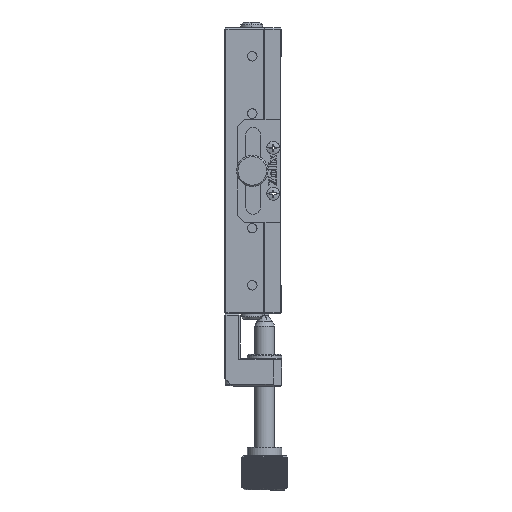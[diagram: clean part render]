
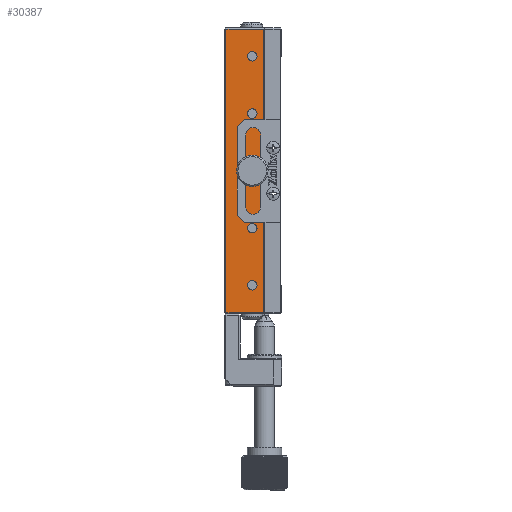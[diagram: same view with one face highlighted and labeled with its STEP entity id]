
A CAD part, left-side view. The second image highlights one B-rep face of the part: STEP entity #30387.
In plain terms, the highlighted planar face has unit normal (-1, 0, 0).
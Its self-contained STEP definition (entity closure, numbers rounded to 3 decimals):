
#181 = CARTESIAN_POINT ( 'NONE',  ( -45.101, -17.141, 74.15 ) ) ;
#251 = VERTEX_POINT ( 'NONE', #7598 ) ;
#455 = CARTESIAN_POINT ( 'NONE',  ( -45.101, -17.141, 112.5 ) ) ;
#563 = ORIENTED_EDGE ( 'NONE', *, *, #35340, .T. ) ;
#1307 = CARTESIAN_POINT ( 'NONE',  ( -45.101, -17.141, 130.85 ) ) ;
#2062 = ORIENTED_EDGE ( 'NONE', *, *, #16859, .T. ) ;
#2207 = CARTESIAN_POINT ( 'NONE',  ( -45.101, -21.141, 162. ) ) ;
#2562 = CARTESIAN_POINT ( 'NONE',  ( -45.101, -17.141, 72.5 ) ) ;
#2805 = AXIS2_PLACEMENT_3D ( 'NONE', #6189, #26050, #39174 ) ;
#2825 = CARTESIAN_POINT ( 'NONE',  ( -45.101, -7.941, 62.5 ) ) ;
#3235 = CARTESIAN_POINT ( 'NONE',  ( -45.101, -17.141, 132.5 ) ) ;
#3565 = AXIS2_PLACEMENT_3D ( 'NONE', #2562, #39468, #19527 ) ;
#3832 = CIRCLE ( 'NONE', #5452, 1.65 ) ;
#4475 = VERTEX_POINT ( 'NONE', #1307 ) ;
#4486 = EDGE_CURVE ( 'NONE', #33120, #25168, #9289, .T. ) ;
#4611 = VERTEX_POINT ( 'NONE', #9201 ) ;
#4981 = DIRECTION ( 'NONE',  ( 0., 1., 0. ) ) ;
#5452 = AXIS2_PLACEMENT_3D ( 'NONE', #3235, #26574, #6572 ) ;
#5827 = ORIENTED_EDGE ( 'NONE', *, *, #4486, .T. ) ;
#6189 = CARTESIAN_POINT ( 'NONE',  ( -45.101, -21.141, 62.5 ) ) ;
#6304 = EDGE_LOOP ( 'NONE', ( #563, #5827, #2062, #29968 ) ) ;
#6340 = PLANE ( 'NONE',  #2805 ) ;
#6572 = DIRECTION ( 'NONE',  ( 0., 0., 1. ) ) ;
#7091 = EDGE_CURVE ( 'NONE', #38229, #18842, #15316, .T. ) ;
#7127 = DIRECTION ( 'NONE',  ( 0., 0., 1. ) ) ;
#7393 = ORIENTED_EDGE ( 'NONE', *, *, #14277, .F. ) ;
#7598 = CARTESIAN_POINT ( 'NONE',  ( -45.101, -17.141, 114.6 ) ) ;
#7731 = AXIS2_PLACEMENT_3D ( 'NONE', #42111, #25052, #11613 ) ;
#7855 = CARTESIAN_POINT ( 'NONE',  ( -45.101, -17.141, 154.15 ) ) ;
#8355 = AXIS2_PLACEMENT_3D ( 'NONE', #23619, #13375, #26959 ) ;
#8783 = FACE_OUTER_BOUND ( 'NONE', #6304, .T. ) ;
#9201 = CARTESIAN_POINT ( 'NONE',  ( -45.101, -17.141, 70.85 ) ) ;
#9289 = LINE ( 'NONE', #24974, #32204 ) ;
#9509 = EDGE_LOOP ( 'NONE', ( #25760, #37669 ) ) ;
#10154 = ORIENTED_EDGE ( 'NONE', *, *, #39456, .F. ) ;
#10185 = CARTESIAN_POINT ( 'NONE',  ( -45.101, -17.141, 152.5 ) ) ;
#10841 = DIRECTION ( 'NONE',  ( -1., 0., 0. ) ) ;
#11249 = DIRECTION ( 'NONE',  ( 0., 0., 1. ) ) ;
#11613 = DIRECTION ( 'NONE',  ( 0., 0., 1. ) ) ;
#12194 = ORIENTED_EDGE ( 'NONE', *, *, #27421, .F. ) ;
#12834 = DIRECTION ( 'NONE',  ( 0., 0., 1. ) ) ;
#13375 = DIRECTION ( 'NONE',  ( -1., 0., 0. ) ) ;
#14277 = EDGE_CURVE ( 'NONE', #4611, #40771, #20222, .T. ) ;
#14322 = CIRCLE ( 'NONE', #34196, 1.65 ) ;
#14615 = ORIENTED_EDGE ( 'NONE', *, *, #7091, .F. ) ;
#15131 = VECTOR ( 'NONE', #21067, 1000. ) ;
#15316 = CIRCLE ( 'NONE', #35848, 1.65 ) ;
#15393 = CARTESIAN_POINT ( 'NONE',  ( -45.101, -21.141, 63. ) ) ;
#15740 = EDGE_LOOP ( 'NONE', ( #14615, #29059 ) ) ;
#16567 = CARTESIAN_POINT ( 'NONE',  ( -45.101, -17.141, 134.15 ) ) ;
#16694 = DIRECTION ( 'NONE',  ( 0., 0., -1. ) ) ;
#16859 = EDGE_CURVE ( 'NONE', #25168, #43278, #20072, .T. ) ;
#17077 = LINE ( 'NONE', #15393, #18141 ) ;
#17447 = DIRECTION ( 'NONE',  ( -1., 0., 0. ) ) ;
#17564 = CARTESIAN_POINT ( 'NONE',  ( -45.101, -17.141, 90.85 ) ) ;
#18024 = CARTESIAN_POINT ( 'NONE',  ( -45.101, -21.141, 62.5 ) ) ;
#18141 = VECTOR ( 'NONE', #32143, 1000. ) ;
#18283 = DIRECTION ( 'NONE',  ( 0., 0., 1. ) ) ;
#18842 = VERTEX_POINT ( 'NONE', #42776 ) ;
#18857 = CARTESIAN_POINT ( 'NONE',  ( -45.101, -7.941, 63. ) ) ;
#19057 = CARTESIAN_POINT ( 'NONE',  ( -45.101, -17.141, 152.5 ) ) ;
#19250 = FACE_BOUND ( 'NONE', #9509, .T. ) ;
#19327 = AXIS2_PLACEMENT_3D ( 'NONE', #20151, #32962, #12834 ) ;
#19360 = VERTEX_POINT ( 'NONE', #26136 ) ;
#19527 = DIRECTION ( 'NONE',  ( 0., 0., 1. ) ) ;
#20072 = LINE ( 'NONE', #2825, #41999 ) ;
#20151 = CARTESIAN_POINT ( 'NONE',  ( -45.101, -17.141, 92.5 ) ) ;
#20222 = CIRCLE ( 'NONE', #3565, 1.65 ) ;
#20262 = FACE_BOUND ( 'NONE', #32023, .T. ) ;
#21067 = DIRECTION ( 'NONE',  ( 0., 0., 1. ) ) ;
#21238 = CARTESIAN_POINT ( 'NONE',  ( -45.101, -21.141, 63. ) ) ;
#21756 = CIRCLE ( 'NONE', #38057, 2.1 ) ;
#22192 = CIRCLE ( 'NONE', #24993, 1.65 ) ;
#22646 = CIRCLE ( 'NONE', #19327, 1.65 ) ;
#22809 = EDGE_CURVE ( 'NONE', #37658, #251, #21756, .T. ) ;
#23415 = FACE_BOUND ( 'NONE', #27876, .T. ) ;
#23619 = CARTESIAN_POINT ( 'NONE',  ( -45.101, -17.141, 132.5 ) ) ;
#23797 = CIRCLE ( 'NONE', #8355, 1.65 ) ;
#23805 = ORIENTED_EDGE ( 'NONE', *, *, #25384, .F. ) ;
#24291 = DIRECTION ( 'NONE',  ( 0., 0., 1. ) ) ;
#24573 = ORIENTED_EDGE ( 'NONE', *, *, #22809, .F. ) ;
#24709 = EDGE_CURVE ( 'NONE', #18842, #38229, #22192, .T. ) ;
#24804 = AXIS2_PLACEMENT_3D ( 'NONE', #40743, #10841, #24291 ) ;
#24974 = CARTESIAN_POINT ( 'NONE',  ( -45.101, -21.141, 162. ) ) ;
#24993 = AXIS2_PLACEMENT_3D ( 'NONE', #10185, #27115, #7127 ) ;
#25052 = DIRECTION ( 'NONE',  ( -1., 0., 0. ) ) ;
#25168 = VERTEX_POINT ( 'NONE', #39302 ) ;
#25384 = EDGE_CURVE ( 'NONE', #40771, #4611, #14322, .T. ) ;
#25521 = VERTEX_POINT ( 'NONE', #17564 ) ;
#25760 = ORIENTED_EDGE ( 'NONE', *, *, #33181, .F. ) ;
#26050 = DIRECTION ( 'NONE',  ( -1., 0., 0. ) ) ;
#26119 = LINE ( 'NONE', #18024, #15131 ) ;
#26136 = CARTESIAN_POINT ( 'NONE',  ( -45.101, -17.141, 94.15 ) ) ;
#26574 = DIRECTION ( 'NONE',  ( -1., 0., 0. ) ) ;
#26959 = DIRECTION ( 'NONE',  ( 0., 0., 1. ) ) ;
#27083 = EDGE_CURVE ( 'NONE', #251, #37658, #34492, .T. ) ;
#27115 = DIRECTION ( 'NONE',  ( -1., 0., 0. ) ) ;
#27179 = DIRECTION ( 'NONE',  ( -1., 0., 0. ) ) ;
#27421 = EDGE_CURVE ( 'NONE', #19360, #25521, #29806, .T. ) ;
#27862 = ORIENTED_EDGE ( 'NONE', *, *, #27083, .F. ) ;
#27876 = EDGE_LOOP ( 'NONE', ( #23805, #7393 ) ) ;
#28420 = CARTESIAN_POINT ( 'NONE',  ( -45.101, -17.141, 110.4 ) ) ;
#29059 = ORIENTED_EDGE ( 'NONE', *, *, #24709, .F. ) ;
#29806 = CIRCLE ( 'NONE', #24804, 1.65 ) ;
#29923 = EDGE_CURVE ( 'NONE', #4475, #40550, #23797, .T. ) ;
#29968 = ORIENTED_EDGE ( 'NONE', *, *, #31263, .T. ) ;
#30387 = ADVANCED_FACE ( 'NONE', ( #8783, #20262, #43225, #23415, #42192, #19250 ), #6340, .T. ) ;
#30511 = DIRECTION ( 'NONE',  ( 0., 0., 1. ) ) ;
#31263 = EDGE_CURVE ( 'NONE', #43278, #35672, #17077, .T. ) ;
#32023 = EDGE_LOOP ( 'NONE', ( #27862, #24573 ) ) ;
#32143 = DIRECTION ( 'NONE',  ( 0., -1., 0. ) ) ;
#32204 = VECTOR ( 'NONE', #4981, 1000. ) ;
#32382 = EDGE_LOOP ( 'NONE', ( #12194, #10154 ) ) ;
#32962 = DIRECTION ( 'NONE',  ( -1., 0., 0. ) ) ;
#33120 = VERTEX_POINT ( 'NONE', #2207 ) ;
#33181 = EDGE_CURVE ( 'NONE', #40550, #4475, #3832, .T. ) ;
#34196 = AXIS2_PLACEMENT_3D ( 'NONE', #35139, #38218, #18283 ) ;
#34492 = CIRCLE ( 'NONE', #7731, 2.1 ) ;
#35139 = CARTESIAN_POINT ( 'NONE',  ( -45.101, -17.141, 72.5 ) ) ;
#35340 = EDGE_CURVE ( 'NONE', #35672, #33120, #26119, .T. ) ;
#35672 = VERTEX_POINT ( 'NONE', #21238 ) ;
#35848 = AXIS2_PLACEMENT_3D ( 'NONE', #19057, #17447, #11249 ) ;
#37658 = VERTEX_POINT ( 'NONE', #28420 ) ;
#37669 = ORIENTED_EDGE ( 'NONE', *, *, #29923, .F. ) ;
#38057 = AXIS2_PLACEMENT_3D ( 'NONE', #455, #27179, #30511 ) ;
#38218 = DIRECTION ( 'NONE',  ( -1., 0., 0. ) ) ;
#38229 = VERTEX_POINT ( 'NONE', #7855 ) ;
#39174 = DIRECTION ( 'NONE',  ( 0., 0., 1. ) ) ;
#39302 = CARTESIAN_POINT ( 'NONE',  ( -45.101, -7.941, 162. ) ) ;
#39456 = EDGE_CURVE ( 'NONE', #25521, #19360, #22646, .T. ) ;
#39468 = DIRECTION ( 'NONE',  ( -1., 0., 0. ) ) ;
#40550 = VERTEX_POINT ( 'NONE', #16567 ) ;
#40743 = CARTESIAN_POINT ( 'NONE',  ( -45.101, -17.141, 92.5 ) ) ;
#40771 = VERTEX_POINT ( 'NONE', #181 ) ;
#41999 = VECTOR ( 'NONE', #16694, 1000. ) ;
#42111 = CARTESIAN_POINT ( 'NONE',  ( -45.101, -17.141, 112.5 ) ) ;
#42192 = FACE_BOUND ( 'NONE', #15740, .T. ) ;
#42776 = CARTESIAN_POINT ( 'NONE',  ( -45.101, -17.141, 150.85 ) ) ;
#43225 = FACE_BOUND ( 'NONE', #32382, .T. ) ;
#43278 = VERTEX_POINT ( 'NONE', #18857 ) ;
